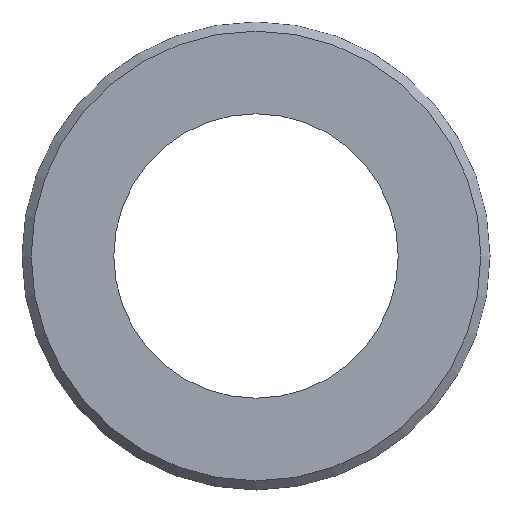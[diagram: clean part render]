
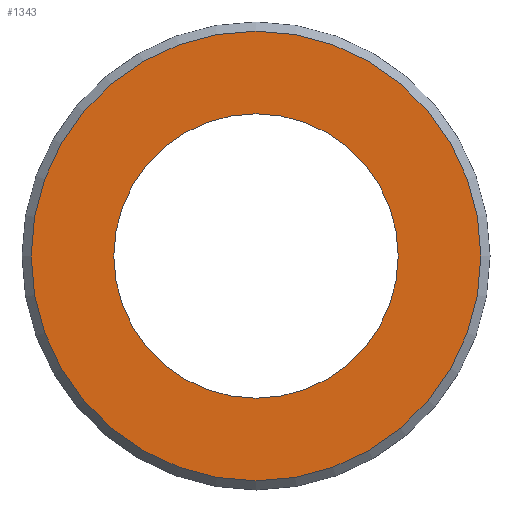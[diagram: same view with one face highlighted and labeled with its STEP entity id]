
A CAD part, front view. The second image highlights one B-rep face of the part: STEP entity #1343.
In plain terms, the highlighted planar face has unit normal (0, -1, 0).
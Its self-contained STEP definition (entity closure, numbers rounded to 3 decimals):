
#42 = ORIENTED_EDGE ( 'NONE', *, *, #1151, .T. ) ;
#179 = DIRECTION ( 'NONE',  ( 0., 0., 1. ) ) ;
#490 = VERTEX_POINT ( 'NONE', #2879 ) ;
#805 = PLANE ( 'NONE',  #1078 ) ;
#837 = EDGE_CURVE ( 'NONE', #1828, #1885, #1840, .T. ) ;
#993 = ORIENTED_EDGE ( 'NONE', *, *, #1069, .T. ) ;
#1069 = EDGE_CURVE ( 'NONE', #1287, #490, #3288, .T. ) ;
#1073 = CARTESIAN_POINT ( 'NONE',  ( 0., -6., 0. ) ) ;
#1078 = AXIS2_PLACEMENT_3D ( 'NONE', #1073, #2515, #3118 ) ;
#1084 = CARTESIAN_POINT ( 'NONE',  ( 0., -6., 0. ) ) ;
#1136 = CARTESIAN_POINT ( 'NONE',  ( 0., -6., 31. ) ) ;
#1151 = EDGE_CURVE ( 'NONE', #1885, #1828, #3639, .T. ) ;
#1250 = EDGE_LOOP ( 'NONE', ( #3679, #42 ) ) ;
#1287 = VERTEX_POINT ( 'NONE', #2725 ) ;
#1313 = DIRECTION ( 'NONE',  ( 0., 0., -1. ) ) ;
#1343 = ADVANCED_FACE ( 'NONE', ( #3381, #3080 ), #805, .T. ) ;
#1349 = AXIS2_PLACEMENT_3D ( 'NONE', #1574, #3534, #1313 ) ;
#1522 = CARTESIAN_POINT ( 'NONE',  ( 0., -6., -31. ) ) ;
#1574 = CARTESIAN_POINT ( 'NONE',  ( 0., -6., 0. ) ) ;
#1686 = DIRECTION ( 'NONE',  ( 0., -1., 0. ) ) ;
#1773 = EDGE_LOOP ( 'NONE', ( #1878, #993 ) ) ;
#1828 = VERTEX_POINT ( 'NONE', #1136 ) ;
#1840 = CIRCLE ( 'NONE', #2318, 31. ) ;
#1878 = ORIENTED_EDGE ( 'NONE', *, *, #2924, .T. ) ;
#1885 = VERTEX_POINT ( 'NONE', #1522 ) ;
#1899 = CARTESIAN_POINT ( 'NONE',  ( 0., -6., 0. ) ) ;
#2318 = AXIS2_PLACEMENT_3D ( 'NONE', #2522, #3659, #179 ) ;
#2508 = AXIS2_PLACEMENT_3D ( 'NONE', #1899, #2523, #3661 ) ;
#2515 = DIRECTION ( 'NONE',  ( 0., -1., 0. ) ) ;
#2522 = CARTESIAN_POINT ( 'NONE',  ( 0., -6., 0. ) ) ;
#2523 = DIRECTION ( 'NONE',  ( 0., 1., 0. ) ) ;
#2626 = AXIS2_PLACEMENT_3D ( 'NONE', #1084, #1686, #3051 ) ;
#2725 = CARTESIAN_POINT ( 'NONE',  ( 0., -6., -49. ) ) ;
#2879 = CARTESIAN_POINT ( 'NONE',  ( 0., -6., 49. ) ) ;
#2924 = EDGE_CURVE ( 'NONE', #490, #1287, #2962, .T. ) ;
#2962 = CIRCLE ( 'NONE', #1349, 49. ) ;
#3051 = DIRECTION ( 'NONE',  ( 0., 0., -1. ) ) ;
#3080 = FACE_BOUND ( 'NONE', #1250, .T. ) ;
#3118 = DIRECTION ( 'NONE',  ( 0., 0., -1. ) ) ;
#3288 = CIRCLE ( 'NONE', #2626, 49. ) ;
#3381 = FACE_OUTER_BOUND ( 'NONE', #1773, .T. ) ;
#3534 = DIRECTION ( 'NONE',  ( 0., -1., 0. ) ) ;
#3639 = CIRCLE ( 'NONE', #2508, 31. ) ;
#3659 = DIRECTION ( 'NONE',  ( 0., 1., 0. ) ) ;
#3661 = DIRECTION ( 'NONE',  ( 0., 0., 1. ) ) ;
#3679 = ORIENTED_EDGE ( 'NONE', *, *, #837, .T. ) ;
